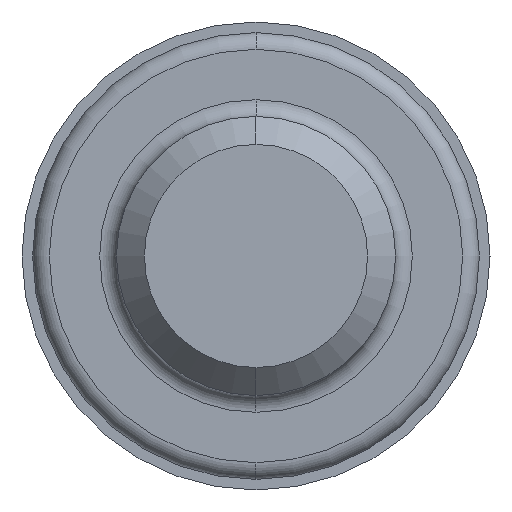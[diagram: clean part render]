
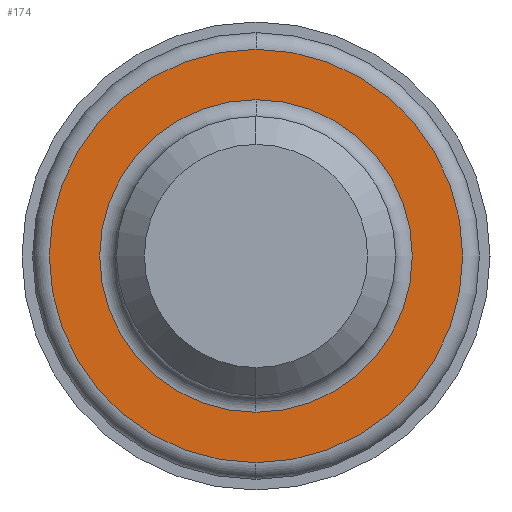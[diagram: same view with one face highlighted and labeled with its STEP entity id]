
A CAD part, left-side view. The second image highlights one B-rep face of the part: STEP entity #174.
In plain terms, the highlighted planar face has unit normal (-1, 0, 0).
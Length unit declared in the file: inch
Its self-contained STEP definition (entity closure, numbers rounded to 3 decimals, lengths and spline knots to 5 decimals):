
#13 = FACE_BOUND ( 'NONE', #110, .T. ) ;
#47 = DIRECTION ( 'NONE',  ( -1., 0., 0. ) ) ;
#49 = EDGE_CURVE ( 'NONE', #172, #426, #307, .T. ) ;
#67 = EDGE_CURVE ( 'NONE', #374, #383, #474, .T. ) ;
#101 = AXIS2_PLACEMENT_3D ( 'NONE', #638, #582, #200 ) ;
#110 = EDGE_LOOP ( 'NONE', ( #401, #142 ) ) ;
#123 = ORIENTED_EDGE ( 'NONE', *, *, #67, .T. ) ;
#141 = AXIS2_PLACEMENT_3D ( 'NONE', #346, #671, #615 ) ;
#142 = ORIENTED_EDGE ( 'NONE', *, *, #49, .F. ) ;
#154 = DIRECTION ( 'NONE',  ( -1., 0., 0. ) ) ;
#159 = CIRCLE ( 'NONE', #141, 0.27985 ) ;
#167 = AXIS2_PLACEMENT_3D ( 'NONE', #419, #47, #361 ) ;
#172 = VERTEX_POINT ( 'NONE', #317 ) ;
#174 = ADVANCED_FACE ( 'NONE', ( #13, #422 ), #642, .F. ) ;
#200 = DIRECTION ( 'NONE',  ( 0., 0., -1. ) ) ;
#202 = EDGE_CURVE ( 'NONE', #383, #374, #542, .T. ) ;
#265 = DIRECTION ( 'NONE',  ( -1., 0., 0. ) ) ;
#300 = CARTESIAN_POINT ( 'NONE',  ( 1.875, 0., 0.37 ) ) ;
#307 = CIRCLE ( 'NONE', #405, 0.27985 ) ;
#317 = CARTESIAN_POINT ( 'NONE',  ( 1.875, 0., -0.27985 ) ) ;
#346 = CARTESIAN_POINT ( 'NONE',  ( 1.875, 0., 0. ) ) ;
#355 = CARTESIAN_POINT ( 'NONE',  ( 1.875, 0., 0.27985 ) ) ;
#357 = EDGE_LOOP ( 'NONE', ( #123, #636 ) ) ;
#361 = DIRECTION ( 'NONE',  ( 0., 0., 1. ) ) ;
#374 = VERTEX_POINT ( 'NONE', #300 ) ;
#383 = VERTEX_POINT ( 'NONE', #471 ) ;
#401 = ORIENTED_EDGE ( 'NONE', *, *, #654, .F. ) ;
#405 = AXIS2_PLACEMENT_3D ( 'NONE', #535, #154, #487 ) ;
#419 = CARTESIAN_POINT ( 'NONE',  ( 1.875, 0., 0. ) ) ;
#422 = FACE_OUTER_BOUND ( 'NONE', #357, .T. ) ;
#426 = VERTEX_POINT ( 'NONE', #355 ) ;
#439 = AXIS2_PLACEMENT_3D ( 'NONE', #648, #265, #589 ) ;
#471 = CARTESIAN_POINT ( 'NONE',  ( 1.875, 0., -0.37 ) ) ;
#474 = CIRCLE ( 'NONE', #439, 0.37 ) ;
#487 = DIRECTION ( 'NONE',  ( 0., 0., 1. ) ) ;
#535 = CARTESIAN_POINT ( 'NONE',  ( 1.875, 0., 0. ) ) ;
#542 = CIRCLE ( 'NONE', #167, 0.37 ) ;
#582 = DIRECTION ( 'NONE',  ( 1., 0., 0. ) ) ;
#589 = DIRECTION ( 'NONE',  ( 0., 0., 1. ) ) ;
#615 = DIRECTION ( 'NONE',  ( 0., 0., 1. ) ) ;
#636 = ORIENTED_EDGE ( 'NONE', *, *, #202, .T. ) ;
#638 = CARTESIAN_POINT ( 'NONE',  ( 1.875, 0.37, 0. ) ) ;
#642 = PLANE ( 'NONE',  #101 ) ;
#648 = CARTESIAN_POINT ( 'NONE',  ( 1.875, 0., 0. ) ) ;
#654 = EDGE_CURVE ( 'NONE', #426, #172, #159, .T. ) ;
#671 = DIRECTION ( 'NONE',  ( -1., 0., 0. ) ) ;
